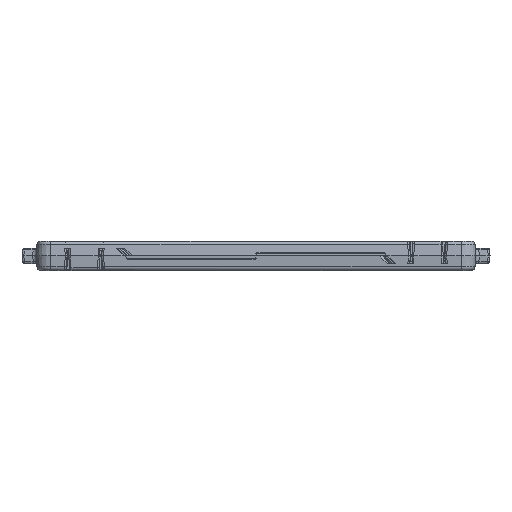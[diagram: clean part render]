
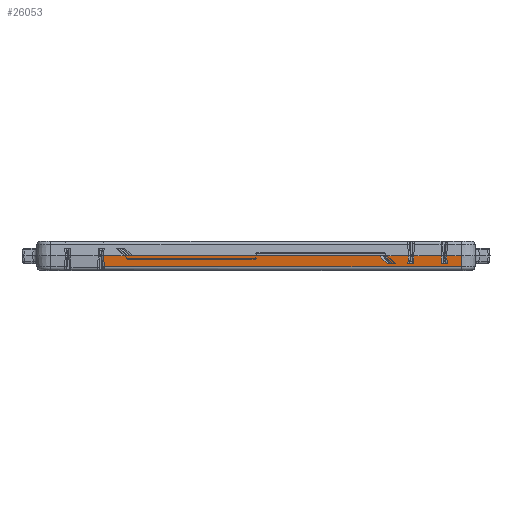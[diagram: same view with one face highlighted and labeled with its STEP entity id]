
A CAD part, left-side view. The second image highlights one B-rep face of the part: STEP entity #26053.
In plain terms, the highlighted planar face has unit normal (-0.996, 0, -0.087).
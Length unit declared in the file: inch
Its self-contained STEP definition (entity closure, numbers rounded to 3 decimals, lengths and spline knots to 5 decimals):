
#9252=CARTESIAN_POINT('',(-1.02089,-0.8316,-0.047));
#9262=DIRECTION('',(0.,1.,0.));
#9263=VECTOR('',#9262,0.03211);
#9264=CARTESIAN_POINT('',(-1.02089,-0.8316,-0.047));
#9265=LINE('',#9264,#9263);
#9522=DIRECTION('',(0.,1.,0.));
#9523=VECTOR('',#9522,0.03609);
#9524=CARTESIAN_POINT('',(-1.02089,-0.96102,-0.047));
#9525=LINE('',#9524,#9523);
#9526=CARTESIAN_POINT('',(-1.02089,-0.92493,-0.047));
#9578=DIRECTION('',(0.087,-0.087,-0.992));
#9579=VECTOR('',#9578,0.04736);
#9580=CARTESIAN_POINT('',(-1.025,-1.16096,0.));
#9581=LINE('',#9580,#9579);
#9582=DIRECTION('',(0.,1.,0.));
#9583=VECTOR('',#9582,0.08904);
#9584=CARTESIAN_POINT('',(-1.025,-1.25,0.));
#9585=LINE('',#9584,#9583);
#9586=DIRECTION('',(0.087,0.,-0.996));
#9587=VECTOR('',#9586,0.06744);
#9588=CARTESIAN_POINT('',(-1.025,-1.25,0.));
#9589=LINE('',#9588,#9587);
#9590=DIRECTION('',(0.,1.,0.));
#9591=VECTOR('',#9590,2.17316);
#9592=CARTESIAN_POINT('',(-1.01912,-1.25,
-0.06718));
#9593=LINE('',#9592,#9591);
#9594=DIRECTION('',(0.087,-0.087,-0.992));
#9595=VECTOR('',#9594,0.06769);
#9596=CARTESIAN_POINT('',(-1.025,0.92904,0.));
#9597=LINE('',#9596,#9595);
#9598=DIRECTION('',(0.,1.,0.));
#9599=VECTOR('',#9598,1.50497);
#9600=CARTESIAN_POINT('',(-1.025,-0.75248,0.));
#9601=LINE('',#9600,#9599);
#9602=DIRECTION('',(-0.062,0.706,0.706));
#9603=VECTOR('',#9602,0.0666);
#9604=CARTESIAN_POINT('',(-1.02089,-0.79948,-0.047));
#9605=LINE('',#9604,#9603);
#9606=DIRECTION('',(0.062,-0.706,-0.706));
#9607=VECTOR('',#9606,0.0666);
#9608=CARTESIAN_POINT('',(-1.025,-0.7846,0.));
#9609=LINE('',#9608,#9607);
#9610=DIRECTION('',(0.,1.,0.));
#9611=VECTOR('',#9610,0.14444);
#9612=CARTESIAN_POINT('',(-1.025,-0.92904,0.));
#9613=LINE('',#9612,#9611);
#9614=DIRECTION('',(-0.087,-0.087,0.992));
#9615=VECTOR('',#9614,0.04736);
#9616=CARTESIAN_POINT('',(-1.02089,-0.92493,-0.047));
#9617=LINE('',#9616,#9615);
#9618=DIRECTION('',(0.087,0.017,-0.996));
#9619=VECTOR('',#9618,0.04719);
#9620=CARTESIAN_POINT('',(-1.025,-0.96182,0.));
#9621=LINE('',#9620,#9619);
#9622=DIRECTION('',(0.087,-0.017,-0.996));
#9623=VECTOR('',#9622,0.04719);
#9624=CARTESIAN_POINT('',(-1.025,-1.12818,0.));
#9625=LINE('',#9624,#9623);
#9630=CARTESIAN_POINT('',(-1.02089,-1.16507,-0.047));
#9640=DIRECTION('',(0.,1.,0.));
#9641=VECTOR('',#9640,0.03609);
#9642=CARTESIAN_POINT('',(-1.02089,-1.16507,-0.047));
#9643=LINE('',#9642,#9641);
#14568=DIRECTION('',(0.,-1.,0.));
#14569=VECTOR('',#14568,0.14444);
#14570=CARTESIAN_POINT('',(-1.025,0.92904,0.));
#14571=LINE('',#14570,#14569);
#19281=CARTESIAN_POINT('',(-1.02089,-0.79948,-0.047));
#19317=DIRECTION('',(0.,1.,0.));
#19318=VECTOR('',#19317,0.03211);
#19319=CARTESIAN_POINT('',(-1.025,0.75248,0.));
#19320=LINE('',#19319,#19318);
#21826=DIRECTION('',(0.,-1.,0.));
#21827=VECTOR('',#21826,0.16636);
#21828=CARTESIAN_POINT('',(-1.025,-0.96182,0.));
#21829=LINE('',#21828,#21827);
#21880=CARTESIAN_POINT('',(-1.025,-0.96182,0.));
#22292=CARTESIAN_POINT('',(-1.02089,-0.96102,-0.047));
#22310=CARTESIAN_POINT('',(-1.02089,-1.12898,-0.047));
#22997=VERTEX_POINT('',#22310);
#22999=VERTEX_POINT('',#21880);
#23037=CARTESIAN_POINT('',(-1.01912,-1.25,-0.06718));
#23039=VERTEX_POINT('',#23037);
#23112=CARTESIAN_POINT('',(-1.025,0.92904,0.));
#23113=CARTESIAN_POINT('',(-1.01912,0.92316,
-0.06718));
#23114=VERTEX_POINT('',#23112);
#23115=VERTEX_POINT('',#23113);
#23183=VERTEX_POINT('',#22292);
#23191=CARTESIAN_POINT('',(-1.025,-1.12818,0.));
#23192=VERTEX_POINT('',#23191);
#23464=CARTESIAN_POINT('',(-1.025,0.7846,0.));
#23465=VERTEX_POINT('',#23464);
#23477=VERTEX_POINT('',#19281);
#23777=CARTESIAN_POINT('',(-1.025,-1.25,0.));
#23779=VERTEX_POINT('',#23777);
#23950=CARTESIAN_POINT('',(-1.025,-1.16096,0.));
#23951=VERTEX_POINT('',#23950);
#23952=CARTESIAN_POINT('',(-1.025,-0.92904,0.));
#23954=VERTEX_POINT('',#23952);
#24304=CARTESIAN_POINT('',(-1.025,-0.7846,0.));
#24305=VERTEX_POINT('',#24304);
#24660=CARTESIAN_POINT('',(-1.025,-0.75248,0.));
#24661=CARTESIAN_POINT('',(-1.025,0.75248,0.));
#24662=VERTEX_POINT('',#24660);
#24663=VERTEX_POINT('',#24661);
#24728=VERTEX_POINT('',#9526);
#24729=VERTEX_POINT('',#9630);
#24734=VERTEX_POINT('',#9252);
#26013=CARTESIAN_POINT('',(-1.025,0.94,0.));
#26014=DIRECTION('',(-0.996,0.,-0.087));
#26015=DIRECTION('',(0.,-1.,0.));
#26016=AXIS2_PLACEMENT_3D('',#26013,#26014,#26015);
#26017=PLANE('',#26016);
#26019=ORIENTED_EDGE('',*,*,#26018,.F.);
#26021=ORIENTED_EDGE('',*,*,#26020,.F.);
#26023=ORIENTED_EDGE('',*,*,#26022,.F.);
#26025=ORIENTED_EDGE('',*,*,#26024,.T.);
#26027=ORIENTED_EDGE('',*,*,#26026,.T.);
#26029=ORIENTED_EDGE('',*,*,#26028,.F.);
#26031=ORIENTED_EDGE('',*,*,#26030,.T.);
#26033=ORIENTED_EDGE('',*,*,#26032,.F.);
#26035=ORIENTED_EDGE('',*,*,#26034,.F.);
#26037=ORIENTED_EDGE('',*,*,#26036,.F.);
#26038=ORIENTED_EDGE('',*,*,#25705,.F.);
#26040=ORIENTED_EDGE('',*,*,#26039,.F.);
#26042=ORIENTED_EDGE('',*,*,#26041,.F.);
#26043=ORIENTED_EDGE('',*,*,#26005,.F.);
#26044=ORIENTED_EDGE('',*,*,#25974,.F.);
#26046=ORIENTED_EDGE('',*,*,#26045,.F.);
#26048=ORIENTED_EDGE('',*,*,#26047,.T.);
#26050=ORIENTED_EDGE('',*,*,#26049,.T.);
#26051=EDGE_LOOP('',(#26019,#26021,#26023,#26025,#26027,#26029,#26031,#26033,
#26035,#26037,#26038,#26040,#26042,#26043,#26044,#26046,#26048,#26050));
#26052=FACE_OUTER_BOUND('',#26051,.F.);
#26053=ADVANCED_FACE('',(#26052),#26017,.T.);
#25705=EDGE_CURVE('',#24734,#23477,#9265,.T.);
#25974=EDGE_CURVE('',#23183,#24728,#9525,.T.);
#26005=EDGE_CURVE('',#24728,#23954,#9617,.T.);
#26018=EDGE_CURVE('',#24729,#22997,#9643,.T.);
#26020=EDGE_CURVE('',#23951,#24729,#9581,.T.);
#26022=EDGE_CURVE('',#23779,#23951,#9585,.T.);
#26024=EDGE_CURVE('',#23779,#23039,#9589,.T.);
#26026=EDGE_CURVE('',#23039,#23115,#9593,.T.);
#26028=EDGE_CURVE('',#23114,#23115,#9597,.T.);
#26030=EDGE_CURVE('',#23114,#23465,#14571,.T.);
#26032=EDGE_CURVE('',#24663,#23465,#19320,.T.);
#26034=EDGE_CURVE('',#24662,#24663,#9601,.T.);
#26036=EDGE_CURVE('',#23477,#24662,#9605,.T.);
#26039=EDGE_CURVE('',#24305,#24734,#9609,.T.);
#26041=EDGE_CURVE('',#23954,#24305,#9613,.T.);
#26045=EDGE_CURVE('',#22999,#23183,#9621,.T.);
#26047=EDGE_CURVE('',#22999,#23192,#21829,.T.);
#26049=EDGE_CURVE('',#23192,#22997,#9625,.T.);
